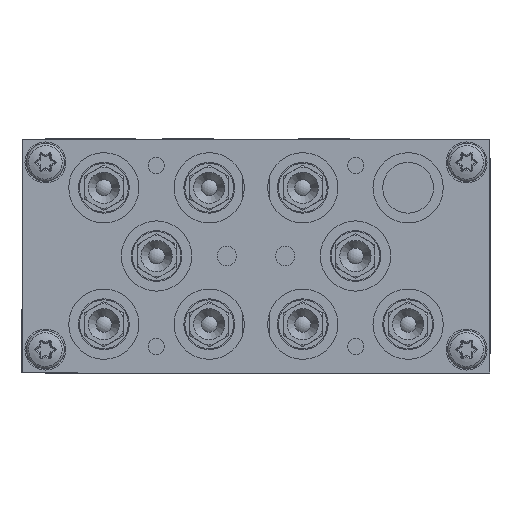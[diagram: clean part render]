
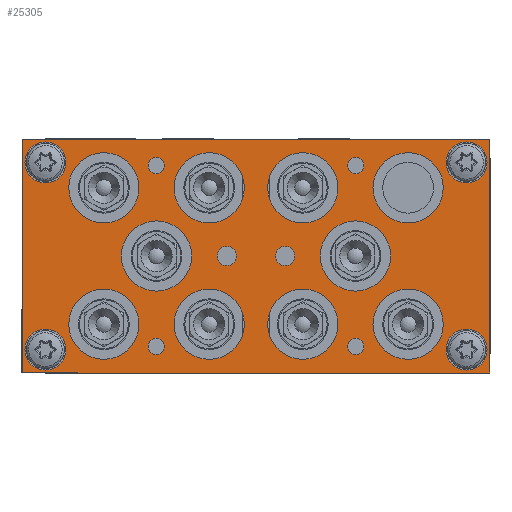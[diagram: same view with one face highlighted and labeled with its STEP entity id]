
A CAD part, left-side view. The second image highlights one B-rep face of the part: STEP entity #25305.
In plain terms, the highlighted planar face has unit normal (-1, 0, 0) as drawn and (0, 0, 1) by its records, which use the part's own axes.
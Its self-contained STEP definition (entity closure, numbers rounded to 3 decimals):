
#2389=LINE('',#60075,#3382);
#2393=LINE('',#60086,#3386);
#2397=LINE('',#60231,#3390);
#2398=LINE('',#60232,#3391);
#3382=VECTOR('',#31138,1000.);
#3386=VECTOR('',#31146,1000.);
#3390=VECTOR('',#31306,1000.);
#3391=VECTOR('',#31307,1000.);
#3776=PLANE('',#27031);
#8632=ORIENTED_EDGE('',*,*,#11326,.F.);
#8633=ORIENTED_EDGE('',*,*,#11327,.F.);
#8634=ORIENTED_EDGE('',*,*,#11328,.F.);
#8635=ORIENTED_EDGE('',*,*,#11329,.F.);
#8636=ORIENTED_EDGE('',*,*,#11330,.F.);
#8637=ORIENTED_EDGE('',*,*,#11331,.F.);
#8638=ORIENTED_EDGE('',*,*,#11332,.T.);
#8639=ORIENTED_EDGE('',*,*,#11333,.T.);
#8640=ORIENTED_EDGE('',*,*,#11334,.T.);
#8641=ORIENTED_EDGE('',*,*,#11335,.T.);
#8642=ORIENTED_EDGE('',*,*,#11336,.T.);
#8643=ORIENTED_EDGE('',*,*,#11337,.T.);
#8644=ORIENTED_EDGE('',*,*,#11338,.T.);
#8645=ORIENTED_EDGE('',*,*,#11268,.T.);
#8646=ORIENTED_EDGE('',*,*,#11339,.T.);
#8647=ORIENTED_EDGE('',*,*,#11273,.T.);
#8648=ORIENTED_EDGE('',*,*,#11340,.T.);
#8649=ORIENTED_EDGE('',*,*,#11341,.T.);
#8650=ORIENTED_EDGE('',*,*,#11342,.T.);
#8651=ORIENTED_EDGE('',*,*,#11343,.T.);
#8652=ORIENTED_EDGE('',*,*,#11344,.T.);
#8653=ORIENTED_EDGE('',*,*,#11345,.T.);
#8654=ORIENTED_EDGE('',*,*,#11346,.T.);
#8655=ORIENTED_EDGE('',*,*,#11347,.T.);
#11268=EDGE_CURVE('',#12900,#12899,#2389,.T.);
#11273=EDGE_CURVE('',#12905,#12904,#2393,.T.);
#11326=EDGE_CURVE('',#12955,#12955,#13749,.T.);
#11327=EDGE_CURVE('',#12956,#12956,#13750,.T.);
#11328=EDGE_CURVE('',#12957,#12957,#13751,.T.);
#11329=EDGE_CURVE('',#12958,#12958,#13752,.T.);
#11330=EDGE_CURVE('',#12959,#12959,#13753,.T.);
#11331=EDGE_CURVE('',#12960,#12960,#13754,.T.);
#11332=EDGE_CURVE('',#12961,#12961,#13755,.T.);
#11333=EDGE_CURVE('',#12962,#12962,#13756,.T.);
#11334=EDGE_CURVE('',#12963,#12963,#13757,.T.);
#11335=EDGE_CURVE('',#12964,#12964,#13758,.T.);
#11336=EDGE_CURVE('',#12965,#12965,#13759,.T.);
#11337=EDGE_CURVE('',#12966,#12966,#13760,.T.);
#11338=EDGE_CURVE('',#12967,#12967,#13761,.T.);
#11339=EDGE_CURVE('',#12899,#12905,#2397,.T.);
#11340=EDGE_CURVE('',#12904,#12900,#2398,.T.);
#11341=EDGE_CURVE('',#12968,#12968,#13762,.T.);
#11342=EDGE_CURVE('',#12969,#12969,#13763,.T.);
#11343=EDGE_CURVE('',#12970,#12970,#13764,.T.);
#11344=EDGE_CURVE('',#12971,#12971,#13765,.T.);
#11345=EDGE_CURVE('',#12972,#12972,#13766,.T.);
#11346=EDGE_CURVE('',#12973,#12973,#13767,.T.);
#11347=EDGE_CURVE('',#12974,#12974,#13768,.T.);
#12899=VERTEX_POINT('',#60074);
#12900=VERTEX_POINT('',#60076);
#12904=VERTEX_POINT('',#60085);
#12905=VERTEX_POINT('',#60087);
#12955=VERTEX_POINT('',#60206);
#12956=VERTEX_POINT('',#60208);
#12957=VERTEX_POINT('',#60210);
#12958=VERTEX_POINT('',#60212);
#12959=VERTEX_POINT('',#60214);
#12960=VERTEX_POINT('',#60216);
#12961=VERTEX_POINT('',#60218);
#12962=VERTEX_POINT('',#60220);
#12963=VERTEX_POINT('',#60222);
#12964=VERTEX_POINT('',#60224);
#12965=VERTEX_POINT('',#60226);
#12966=VERTEX_POINT('',#60228);
#12967=VERTEX_POINT('',#60230);
#12968=VERTEX_POINT('',#60234);
#12969=VERTEX_POINT('',#60236);
#12970=VERTEX_POINT('',#60238);
#12971=VERTEX_POINT('',#60240);
#12972=VERTEX_POINT('',#60242);
#12973=VERTEX_POINT('',#60244);
#12974=VERTEX_POINT('',#60246);
#13749=CIRCLE('',#27032,2.067);
#13750=CIRCLE('',#27033,2.067);
#13751=CIRCLE('',#27034,2.067);
#13752=CIRCLE('',#27035,2.067);
#13753=CIRCLE('',#27036,2.459);
#13754=CIRCLE('',#27037,2.459);
#13755=CIRCLE('',#27038,9.);
#13756=CIRCLE('',#27039,9.);
#13757=CIRCLE('',#27040,9.);
#13758=CIRCLE('',#27041,9.);
#13759=CIRCLE('',#27042,9.);
#13760=CIRCLE('',#27043,5.25);
#13761=CIRCLE('',#27044,5.25);
#13762=CIRCLE('',#27045,5.25);
#13763=CIRCLE('',#27046,9.);
#13764=CIRCLE('',#27047,9.);
#13765=CIRCLE('',#27048,9.);
#13766=CIRCLE('',#27049,9.);
#13767=CIRCLE('',#27050,9.);
#13768=CIRCLE('',#27051,5.25);
#15046=EDGE_LOOP('',(#8632));
#15047=EDGE_LOOP('',(#8633));
#15048=EDGE_LOOP('',(#8634));
#15049=EDGE_LOOP('',(#8635));
#15050=EDGE_LOOP('',(#8636));
#15051=EDGE_LOOP('',(#8637));
#15052=EDGE_LOOP('',(#8638));
#15053=EDGE_LOOP('',(#8639));
#15054=EDGE_LOOP('',(#8640));
#15055=EDGE_LOOP('',(#8641));
#15056=EDGE_LOOP('',(#8642));
#15057=EDGE_LOOP('',(#8643));
#15058=EDGE_LOOP('',(#8644));
#15059=EDGE_LOOP('',(#8645,#8646,#8647,#8648));
#15060=EDGE_LOOP('',(#8649));
#15061=EDGE_LOOP('',(#8650));
#15062=EDGE_LOOP('',(#8651));
#15063=EDGE_LOOP('',(#8652));
#15064=EDGE_LOOP('',(#8653));
#15065=EDGE_LOOP('',(#8654));
#15066=EDGE_LOOP('',(#8655));
#16459=FACE_BOUND('',#15046,.T.);
#16460=FACE_BOUND('',#15047,.T.);
#16461=FACE_BOUND('',#15048,.T.);
#16462=FACE_BOUND('',#15049,.T.);
#16463=FACE_BOUND('',#15050,.T.);
#16464=FACE_BOUND('',#15051,.T.);
#16465=FACE_BOUND('',#15052,.T.);
#16466=FACE_BOUND('',#15053,.T.);
#16467=FACE_BOUND('',#15054,.T.);
#16468=FACE_BOUND('',#15055,.T.);
#16469=FACE_BOUND('',#15056,.T.);
#16470=FACE_BOUND('',#15057,.T.);
#16471=FACE_BOUND('',#15058,.T.);
#16472=FACE_BOUND('',#15059,.T.);
#16473=FACE_BOUND('',#15060,.T.);
#16474=FACE_BOUND('',#15061,.T.);
#16475=FACE_BOUND('',#15062,.T.);
#16476=FACE_BOUND('',#15063,.T.);
#16477=FACE_BOUND('',#15064,.T.);
#16478=FACE_BOUND('',#15065,.T.);
#16479=FACE_BOUND('',#15066,.T.);
#25305=ADVANCED_FACE('',(#16459,#16460,#16461,#16462,#16463,#16464,#16465,
#16466,#16467,#16468,#16469,#16470,#16471,#16472,#16473,#16474,#16475,#16476,
#16477,#16478,#16479),#3776,.T.);
#27031=AXIS2_PLACEMENT_3D('',#60204,#31278,#31279);
#27032=AXIS2_PLACEMENT_3D('',#60205,#31280,#31281);
#27033=AXIS2_PLACEMENT_3D('',#60207,#31282,#31283);
#27034=AXIS2_PLACEMENT_3D('',#60209,#31284,#31285);
#27035=AXIS2_PLACEMENT_3D('',#60211,#31286,#31287);
#27036=AXIS2_PLACEMENT_3D('',#60213,#31288,#31289);
#27037=AXIS2_PLACEMENT_3D('',#60215,#31290,#31291);
#27038=AXIS2_PLACEMENT_3D('',#60217,#31292,#31293);
#27039=AXIS2_PLACEMENT_3D('',#60219,#31294,#31295);
#27040=AXIS2_PLACEMENT_3D('',#60221,#31296,#31297);
#27041=AXIS2_PLACEMENT_3D('',#60223,#31298,#31299);
#27042=AXIS2_PLACEMENT_3D('',#60225,#31300,#31301);
#27043=AXIS2_PLACEMENT_3D('',#60227,#31302,#31303);
#27044=AXIS2_PLACEMENT_3D('',#60229,#31304,#31305);
#27045=AXIS2_PLACEMENT_3D('',#60233,#31308,#31309);
#27046=AXIS2_PLACEMENT_3D('',#60235,#31310,#31311);
#27047=AXIS2_PLACEMENT_3D('',#60237,#31312,#31313);
#27048=AXIS2_PLACEMENT_3D('',#60239,#31314,#31315);
#27049=AXIS2_PLACEMENT_3D('',#60241,#31316,#31317);
#27050=AXIS2_PLACEMENT_3D('',#60243,#31318,#31319);
#27051=AXIS2_PLACEMENT_3D('',#60245,#31320,#31321);
#31138=DIRECTION('',(-1.,0.,0.));
#31146=DIRECTION('',(1.,0.,0.));
#31278=DIRECTION('',(0.,0.,1.));
#31279=DIRECTION('',(1.,0.,0.));
#31280=DIRECTION('',(0.,0.,1.));
#31281=DIRECTION('',(1.,0.,0.));
#31282=DIRECTION('',(0.,0.,1.));
#31283=DIRECTION('',(1.,0.,0.));
#31284=DIRECTION('',(0.,0.,1.));
#31285=DIRECTION('',(1.,0.,0.));
#31286=DIRECTION('',(0.,0.,1.));
#31287=DIRECTION('',(1.,0.,0.));
#31288=DIRECTION('',(0.,0.,1.));
#31289=DIRECTION('',(1.,0.,0.));
#31290=DIRECTION('',(0.,0.,1.));
#31291=DIRECTION('',(1.,0.,0.));
#31292=DIRECTION('',(0.,0.,-1.));
#31293=DIRECTION('',(1.,0.,0.));
#31294=DIRECTION('',(0.,0.,-1.));
#31295=DIRECTION('',(1.,0.,0.));
#31296=DIRECTION('',(0.,0.,-1.));
#31297=DIRECTION('',(1.,0.,0.));
#31298=DIRECTION('',(0.,0.,-1.));
#31299=DIRECTION('',(1.,0.,0.));
#31300=DIRECTION('',(0.,0.,-1.));
#31301=DIRECTION('',(1.,0.,0.));
#31302=DIRECTION('',(0.,0.,-1.));
#31303=DIRECTION('',(1.,0.,0.));
#31304=DIRECTION('',(0.,0.,-1.));
#31305=DIRECTION('',(1.,0.,0.));
#31306=DIRECTION('',(0.,-1.,0.));
#31307=DIRECTION('',(0.,1.,0.));
#31308=DIRECTION('',(0.,0.,-1.));
#31309=DIRECTION('',(1.,0.,0.));
#31310=DIRECTION('',(0.,0.,-1.));
#31311=DIRECTION('',(1.,0.,0.));
#31312=DIRECTION('',(0.,0.,-1.));
#31313=DIRECTION('',(1.,0.,0.));
#31314=DIRECTION('',(0.,0.,-1.));
#31315=DIRECTION('',(1.,0.,0.));
#31316=DIRECTION('',(0.,0.,-1.));
#31317=DIRECTION('',(1.,0.,0.));
#31318=DIRECTION('',(0.,0.,-1.));
#31319=DIRECTION('',(1.,0.,0.));
#31320=DIRECTION('',(0.,0.,-1.));
#31321=DIRECTION('',(1.,0.,0.));
#60074=CARTESIAN_POINT('',(-60.,30.,15.));
#60075=CARTESIAN_POINT('',(60.,30.,15.));
#60076=CARTESIAN_POINT('',(60.,30.,15.));
#60085=CARTESIAN_POINT('',(60.,-30.,15.));
#60086=CARTESIAN_POINT('',(-60.,-30.,15.));
#60087=CARTESIAN_POINT('',(-60.,-30.,15.));
#60204=CARTESIAN_POINT('',(-60.,30.,15.));
#60205=CARTESIAN_POINT('',(25.6,23.2,15.));
#60206=CARTESIAN_POINT('',(27.667,23.2,15.));
#60207=CARTESIAN_POINT('',(-25.6,23.2,15.));
#60208=CARTESIAN_POINT('',(-23.533,23.2,15.));
#60209=CARTESIAN_POINT('',(-25.6,-23.2,15.));
#60210=CARTESIAN_POINT('',(-23.533,-23.2,15.));
#60211=CARTESIAN_POINT('',(25.6,-23.2,15.));
#60212=CARTESIAN_POINT('',(27.667,-23.2,15.));
#60213=CARTESIAN_POINT('',(7.5,0.,15.));
#60214=CARTESIAN_POINT('',(9.959,0.,15.));
#60215=CARTESIAN_POINT('',(-7.5,0.,15.));
#60216=CARTESIAN_POINT('',(-5.041,0.,15.));
#60217=CARTESIAN_POINT('',(25.5,0.,15.));
#60218=CARTESIAN_POINT('',(34.5,0.,15.));
#60219=CARTESIAN_POINT('',(39.,17.5,15.));
#60220=CARTESIAN_POINT('',(48.,17.5,15.));
#60221=CARTESIAN_POINT('',(-39.,-17.5,15.));
#60222=CARTESIAN_POINT('',(-30.,-17.5,15.));
#60223=CARTESIAN_POINT('',(-12.,-17.5,15.));
#60224=CARTESIAN_POINT('',(-3.,-17.5,15.));
#60225=CARTESIAN_POINT('',(12.,17.5,15.));
#60226=CARTESIAN_POINT('',(21.,17.5,15.));
#60227=CARTESIAN_POINT('',(-54.,-24.,15.));
#60228=CARTESIAN_POINT('',(-48.75,-24.,15.));
#60229=CARTESIAN_POINT('',(54.,24.,15.));
#60230=CARTESIAN_POINT('',(59.25,24.,15.));
#60231=CARTESIAN_POINT('',(-60.,30.,15.));
#60232=CARTESIAN_POINT('',(60.,-30.,15.));
#60233=CARTESIAN_POINT('',(54.,-24.,15.));
#60234=CARTESIAN_POINT('',(59.25,-24.,15.));
#60235=CARTESIAN_POINT('',(-12.,17.5,15.));
#60236=CARTESIAN_POINT('',(-3.,17.5,15.));
#60237=CARTESIAN_POINT('',(12.,-17.5,15.));
#60238=CARTESIAN_POINT('',(21.,-17.5,15.));
#60239=CARTESIAN_POINT('',(-39.,17.5,15.));
#60240=CARTESIAN_POINT('',(-30.,17.5,15.));
#60241=CARTESIAN_POINT('',(39.,-17.5,15.));
#60242=CARTESIAN_POINT('',(48.,-17.5,15.));
#60243=CARTESIAN_POINT('',(-25.5,0.,15.));
#60244=CARTESIAN_POINT('',(-16.5,0.,15.));
#60245=CARTESIAN_POINT('',(-54.,24.,15.));
#60246=CARTESIAN_POINT('',(-48.75,24.,15.));
